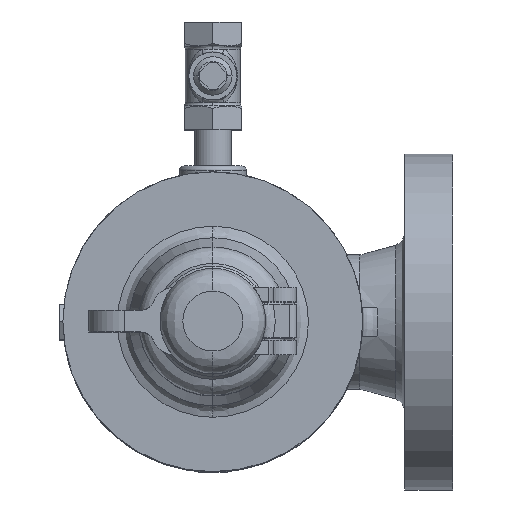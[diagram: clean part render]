
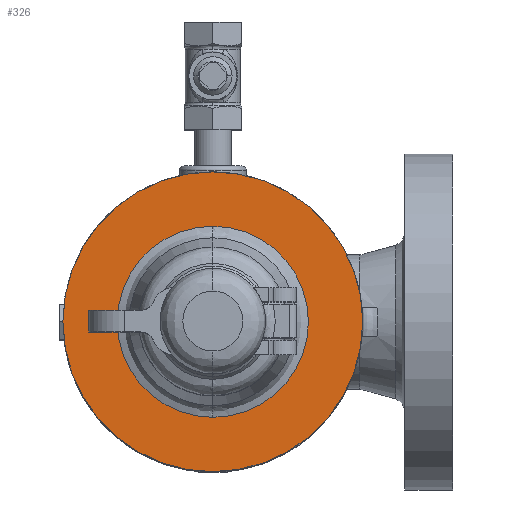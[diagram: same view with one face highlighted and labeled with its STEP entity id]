
A CAD part, top view. The second image highlights one B-rep face of the part: STEP entity #326.
In plain terms, the highlighted planar face has unit normal (0, 0, 1) as drawn and (0, 1, 0) by its records, which use the part's own axes.
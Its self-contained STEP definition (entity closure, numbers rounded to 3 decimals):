
#326=ADVANCED_FACE('',(#1194,#1195),#1193,.F.);
#1193=PLANE('',#5100);
#1194=FACE_OUTER_BOUND('',#5101,.T.);
#1195=FACE_BOUND('',#5102,.T.);
#5097=CARTESIAN_POINT('',(-118.253,74.,72.5));
#5098=DIRECTION('',(0.,-1.,0.));
#5099=DIRECTION('',(0.,0.,-1.));
#5100=AXIS2_PLACEMENT_3D('',#5097,#5098,#5099);
#5101=EDGE_LOOP('',(#13162,#13163));
#5102=EDGE_LOOP('',(#13164,#13165));
#13162=ORIENTED_EDGE('',*,*,#14852,.F.);
#13163=ORIENTED_EDGE('',*,*,#14853,.F.);
#13164=ORIENTED_EDGE('',*,*,#14854,.T.);
#13165=ORIENTED_EDGE('',*,*,#14855,.T.);
#14852=EDGE_CURVE('',#17068,#17069,#17070,.T.);
#14853=EDGE_CURVE('',#17069,#17068,#17076,.T.);
#14854=EDGE_CURVE('',#17082,#17083,#17084,.T.);
#14855=EDGE_CURVE('',#17083,#17082,#17090,.T.);
#17068=VERTEX_POINT('',#23360);
#17069=VERTEX_POINT('',#23361);
#17070=CIRCLE('',#23365,62.5);
#17076=CIRCLE('',#23369,62.5);
#17082=VERTEX_POINT('',#23370);
#17083=VERTEX_POINT('',#23371);
#17084=CIRCLE('',#23375,39.837);
#17090=CIRCLE('',#23379,39.837);
#23360=CARTESIAN_POINT('',(0.,74.,-62.5));
#23361=CARTESIAN_POINT('',(0.,74.,62.5));
#23362=CARTESIAN_POINT('',(0.,74.,0.));
#23363=DIRECTION('',(0.,-1.,0.));
#23364=DIRECTION('',(0.,0.,1.));
#23365=AXIS2_PLACEMENT_3D('',#23362,#23363,#23364);
#23366=CARTESIAN_POINT('',(0.,74.,0.));
#23367=DIRECTION('',(0.,-1.,0.));
#23368=DIRECTION('',(0.,0.,1.));
#23369=AXIS2_PLACEMENT_3D('',#23366,#23367,#23368);
#23370=CARTESIAN_POINT('',(0.,74.,-39.837));
#23371=CARTESIAN_POINT('',(0.,74.,39.837));
#23372=CARTESIAN_POINT('',(0.,74.,0.));
#23373=DIRECTION('',(0.,-1.,0.));
#23374=DIRECTION('',(0.,0.,-1.));
#23375=AXIS2_PLACEMENT_3D('',#23372,#23373,#23374);
#23376=CARTESIAN_POINT('',(0.,74.,0.));
#23377=DIRECTION('',(0.,-1.,0.));
#23378=DIRECTION('',(0.,0.,-1.));
#23379=AXIS2_PLACEMENT_3D('',#23376,#23377,#23378);
